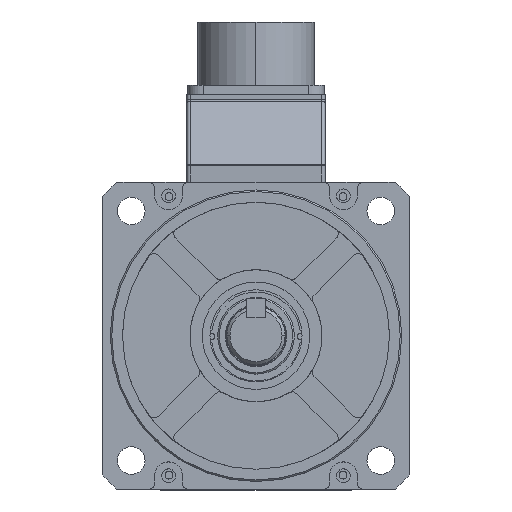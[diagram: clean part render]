
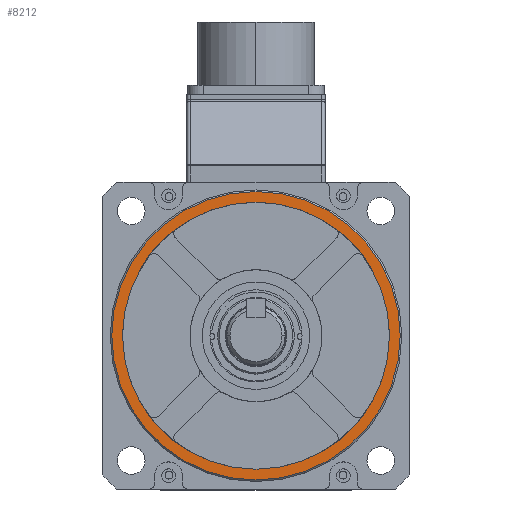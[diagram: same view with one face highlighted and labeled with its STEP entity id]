
A CAD part, top view. The second image highlights one B-rep face of the part: STEP entity #8212.
In plain terms, the highlighted planar face has unit normal (0, 0, 1).
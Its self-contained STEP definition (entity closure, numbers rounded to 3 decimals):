
#483 = ORIENTED_EDGE ( 'NONE', *, *, #31960, .T. ) ;
#863 = DIRECTION ( 'NONE',  ( 0., 0., -1. ) ) ;
#1146 = PLANE ( 'NONE',  #51456 ) ;
#2509 = AXIS2_PLACEMENT_3D ( 'NONE', #10798, #38426, #15199 ) ;
#3106 = ORIENTED_EDGE ( 'NONE', *, *, #25755, .T. ) ;
#3582 = CARTESIAN_POINT ( 'NONE',  ( -43.5, 0., 21.8 ) ) ;
#5082 = VERTEX_POINT ( 'NONE', #56770 ) ;
#5662 = VERTEX_POINT ( 'NONE', #44312 ) ;
#8212 = ADVANCED_FACE ( 'NONE', ( #53756, #27288 ), #1146, .F. ) ;
#9442 = ORIENTED_EDGE ( 'NONE', *, *, #12681, .F. ) ;
#10798 = CARTESIAN_POINT ( 'NONE',  ( 0., 0., 21.8 ) ) ;
#12681 = EDGE_CURVE ( 'NONE', #22207, #5082, #53695, .T. ) ;
#12788 = CIRCLE ( 'NONE', #2509, 47. ) ;
#14525 = CIRCLE ( 'NONE', #28401, 47. ) ;
#15199 = DIRECTION ( 'NONE',  ( -1., 0., 0. ) ) ;
#19046 = CARTESIAN_POINT ( 'NONE',  ( 0., 0., 21.8 ) ) ;
#20281 = CARTESIAN_POINT ( 'NONE',  ( 0., 0., 21.8 ) ) ;
#22207 = VERTEX_POINT ( 'NONE', #3582 ) ;
#22295 = DIRECTION ( 'NONE',  ( -1., 0., 0. ) ) ;
#25146 = DIRECTION ( 'NONE',  ( -1., 0., 0. ) ) ;
#25755 = EDGE_CURVE ( 'NONE', #5662, #52521, #14525, .T. ) ;
#27288 = FACE_BOUND ( 'NONE', #27395, .T. ) ;
#27395 = EDGE_LOOP ( 'NONE', ( #40093, #9442 ) ) ;
#28148 = EDGE_CURVE ( 'NONE', #5082, #22207, #38931, .T. ) ;
#28401 = AXIS2_PLACEMENT_3D ( 'NONE', #38087, #56027, #25146 ) ;
#29637 = EDGE_LOOP ( 'NONE', ( #3106, #483 ) ) ;
#31960 = EDGE_CURVE ( 'NONE', #52521, #5662, #12788, .T. ) ;
#37377 = DIRECTION ( 'NONE',  ( 0., 0., 1. ) ) ;
#37664 = CARTESIAN_POINT ( 'NONE',  ( 0., 0., 21.8 ) ) ;
#38087 = CARTESIAN_POINT ( 'NONE',  ( 0., 0., 21.8 ) ) ;
#38426 = DIRECTION ( 'NONE',  ( 0., 0., 1. ) ) ;
#38501 = DIRECTION ( 'NONE',  ( 0., 0., 1. ) ) ;
#38931 = CIRCLE ( 'NONE', #52072, 43.5 ) ;
#40093 = ORIENTED_EDGE ( 'NONE', *, *, #28148, .F. ) ;
#42400 = AXIS2_PLACEMENT_3D ( 'NONE', #20281, #38501, #56439 ) ;
#44312 = CARTESIAN_POINT ( 'NONE',  ( -47., 0., 21.8 ) ) ;
#46341 = CARTESIAN_POINT ( 'NONE',  ( 47., 0., 21.8 ) ) ;
#50894 = DIRECTION ( 'NONE',  ( 1., 0., 0. ) ) ;
#51456 = AXIS2_PLACEMENT_3D ( 'NONE', #19046, #863, #22295 ) ;
#52072 = AXIS2_PLACEMENT_3D ( 'NONE', #37664, #37377, #50894 ) ;
#52521 = VERTEX_POINT ( 'NONE', #46341 ) ;
#53695 = CIRCLE ( 'NONE', #42400, 43.5 ) ;
#53756 = FACE_OUTER_BOUND ( 'NONE', #29637, .T. ) ;
#56027 = DIRECTION ( 'NONE',  ( 0., 0., 1. ) ) ;
#56439 = DIRECTION ( 'NONE',  ( 1., 0., 0. ) ) ;
#56770 = CARTESIAN_POINT ( 'NONE',  ( 43.5, 0., 21.8 ) ) ;
